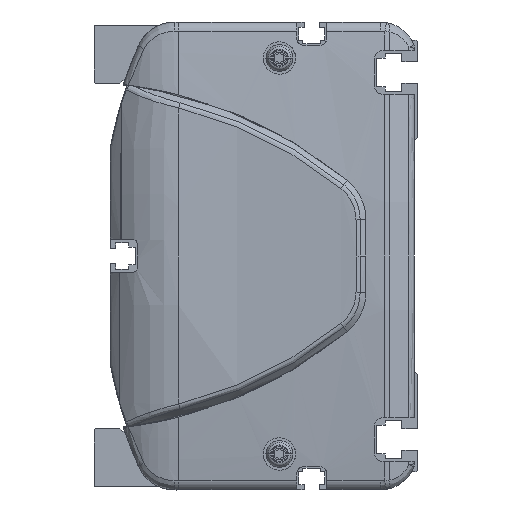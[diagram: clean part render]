
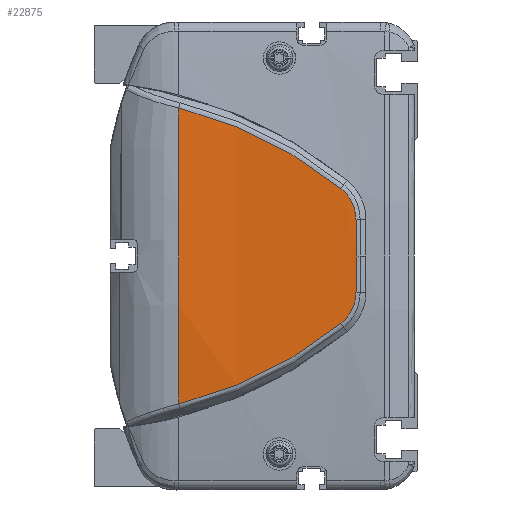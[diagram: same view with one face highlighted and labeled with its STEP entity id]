
A CAD part, left-side view. The second image highlights one B-rep face of the part: STEP entity #22875.
In plain terms, the highlighted cylindrical face has radius 500 mm (diameter 1000 mm), a partial arc.
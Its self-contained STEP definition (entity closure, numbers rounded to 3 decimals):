
#7269=CARTESIAN_POINT('',(486.,66.362,0.));
#7270=DIRECTION('',(0.,-1.,0.));
#7271=DIRECTION('',(-0.997,0.,0.082));
#7272=AXIS2_PLACEMENT_3D('',#7269,#7270,#7271);
#7325=CARTESIAN_POINT('',(-13.648,21.313,
-18.759));
#7326=CARTESIAN_POINT('',(-13.449,27.904,
-24.058));
#7327=CARTESIAN_POINT('',(-12.934,42.195,
-33.27));
#7328=CARTESIAN_POINT('',(-12.471,58.156,
-39.127));
#7329=CARTESIAN_POINT('',(-12.306,66.362,
-41.121));
#7331=CARTESIAN_POINT('',(-12.306,66.362,41.121));
#7332=CARTESIAN_POINT('',(-12.471,58.156,39.127));
#7333=CARTESIAN_POINT('',(-12.934,42.195,33.27));
#7334=CARTESIAN_POINT('',(-13.449,27.904,24.058));
#7335=CARTESIAN_POINT('',(-13.648,21.313,18.759));
#7337=CARTESIAN_POINT('',(-13.648,21.313,18.759));
#7338=CARTESIAN_POINT('',(-13.686,20.035,17.736));
#7339=CARTESIAN_POINT('',(-13.779,17.936,15.107));
#7340=CARTESIAN_POINT('',(-13.863,17.152,11.827));
#7341=CARTESIAN_POINT('',(-13.896,17.124,10.178));
#7343=CARTESIAN_POINT('',(-13.896,17.124,10.178));
#7344=CARTESIAN_POINT('',(-13.92,17.107,9.021));
#7345=CARTESIAN_POINT('',(-13.959,17.067,6.724));
#7346=CARTESIAN_POINT('',(-13.993,16.979,3.33));
#7347=CARTESIAN_POINT('',(-14.,16.898,1.104));
#7348=CARTESIAN_POINT('',(-14.,16.849,
0.));
#7350=CARTESIAN_POINT('',(-14.,16.849,
0.));
#7351=CARTESIAN_POINT('',(-14.,16.898,
-1.104));
#7352=CARTESIAN_POINT('',(-13.993,16.979,
-3.33));
#7353=CARTESIAN_POINT('',(-13.959,17.067,
-6.723));
#7354=CARTESIAN_POINT('',(-13.92,17.107,
-9.023));
#7355=CARTESIAN_POINT('',(-13.896,17.124,
-10.18));
#7357=CARTESIAN_POINT('',(-13.896,17.124,
-10.18));
#7358=CARTESIAN_POINT('',(-13.863,17.152,
-11.828));
#7359=CARTESIAN_POINT('',(-13.779,17.937,
-15.109));
#7360=CARTESIAN_POINT('',(-13.686,20.035,
-17.736));
#7361=CARTESIAN_POINT('',(-13.648,21.313,
-18.759));
#10655=VERTEX_POINT('',#7325);
#10656=VERTEX_POINT('',#7329);
#10657=CARTESIAN_POINT('',(-12.306,66.362,
41.121));
#10658=VERTEX_POINT('',#10657);
#10659=VERTEX_POINT('',#7335);
#10660=VERTEX_POINT('',#7341);
#10661=VERTEX_POINT('',#7348);
#10662=VERTEX_POINT('',#7355);
#22855=CARTESIAN_POINT('',(486.,8.006,0.));
#22856=DIRECTION('',(0.,1.,0.));
#22857=DIRECTION('',(1.,0.,0.));
#22858=AXIS2_PLACEMENT_3D('',#22855,#22856,#22857);
#22859=CYLINDRICAL_SURFACE('',#22858,500.);
#22861=ORIENTED_EDGE('',*,*,#22860,.T.);
#22862=ORIENTED_EDGE('',*,*,#22829,.F.);
#22864=ORIENTED_EDGE('',*,*,#22863,.T.);
#22866=ORIENTED_EDGE('',*,*,#22865,.T.);
#22868=ORIENTED_EDGE('',*,*,#22867,.T.);
#22870=ORIENTED_EDGE('',*,*,#22869,.T.);
#22872=ORIENTED_EDGE('',*,*,#22871,.T.);
#22873=EDGE_LOOP('',(#22861,#22862,#22864,#22866,#22868,#22870,#22872));
#22874=FACE_OUTER_BOUND('',#22873,.F.);
#22875=ADVANCED_FACE('',(#22874),#22859,.T.);
#7273=CIRCLE('',#7272,500.);
#7330=B_SPLINE_CURVE_WITH_KNOTS('',3,(#7325,#7326,#7327,#7328,#7329),
.UNSPECIFIED.,.F.,.F.,(4,1,4),(0.,0.5,1.),.UNSPECIFIED.);
#7336=B_SPLINE_CURVE_WITH_KNOTS('',3,(#7331,#7332,#7333,#7334,#7335),
.UNSPECIFIED.,.F.,.F.,(4,1,4),(0.,0.5,1.),.UNSPECIFIED.);
#7342=B_SPLINE_CURVE_WITH_KNOTS('',3,(#7337,#7338,#7339,#7340,#7341),
.UNSPECIFIED.,.F.,.F.,(4,1,4),(0.,0.5,1.),.UNSPECIFIED.);
#7349=B_SPLINE_CURVE_WITH_KNOTS('',3,(#7343,#7344,#7345,#7346,#7347,#7348),
.UNSPECIFIED.,.F.,.F.,(4,1,1,4),(0.,0.333,0.667,1.),
.UNSPECIFIED.);
#7356=B_SPLINE_CURVE_WITH_KNOTS('',3,(#7350,#7351,#7352,#7353,#7354,#7355),
.UNSPECIFIED.,.F.,.F.,(4,1,1,4),(0.,0.333,0.667,1.),
.UNSPECIFIED.);
#7362=B_SPLINE_CURVE_WITH_KNOTS('',3,(#7357,#7358,#7359,#7360,#7361),
.UNSPECIFIED.,.F.,.F.,(4,1,4),(0.,0.5,1.),.UNSPECIFIED.);
#22829=EDGE_CURVE('',#10658,#10656,#7273,.T.);
#22860=EDGE_CURVE('',#10655,#10656,#7330,.T.);
#22863=EDGE_CURVE('',#10658,#10659,#7336,.T.);
#22865=EDGE_CURVE('',#10659,#10660,#7342,.T.);
#22867=EDGE_CURVE('',#10660,#10661,#7349,.T.);
#22869=EDGE_CURVE('',#10661,#10662,#7356,.T.);
#22871=EDGE_CURVE('',#10662,#10655,#7362,.T.);
